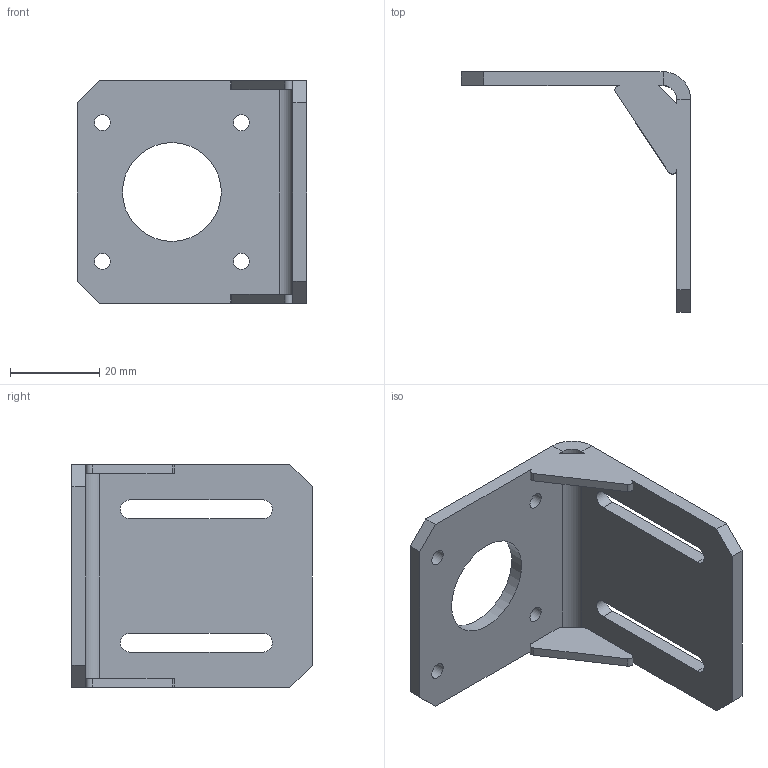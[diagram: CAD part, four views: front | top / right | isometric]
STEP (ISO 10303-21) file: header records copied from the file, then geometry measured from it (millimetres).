
FILE_DESCRIPTION(/* description */ (''),/* implementation_level */ '2;1');
FILE_NAME(/* name */ 'C:\Users\Lukas\Documents\Inventor\Rocketronics Teile\NEMA 17 Winkel.stp',/* time_stamp */ '2026-03-17T17:08:03+01:00',/* author */ ('Lukas'),/* organization */ (''),/* preprocessor_version */ 'ST-DEVELOPER v19',/* originating_system */ 'Autodesk Inventor 2023',/* authorisation */ '');
FILE_SCHEMA (('AUTOMOTIVE_DESIGN { 1 0 10303 214 3 1 1 }'));
Length unit declared in the file: millimetre
Products named in the file (1): NEMA 17 Winkel
Bounding box: 51.5 x 54 x 50 mm (x, y, z)
Volume: 13825.5 mm3; surface area: 10876.6 mm2
Topology: 1 solids, 1 shells, 39 faces, 115 edges, 74 vertices
Faces by surface type: plane 24, cylinder 15
Full cylindrical faces by diameter (mm): 3.6 x4, 22.2 x1
Entity records: 1374 total; most frequent: ORIENTED_EDGE 230, CARTESIAN_POINT 229, DIRECTION 225, EDGE_CURVE 115, LINE 85, VECTOR 85, VERTEX_POINT 74, AXIS2_PLACEMENT_3D 70
